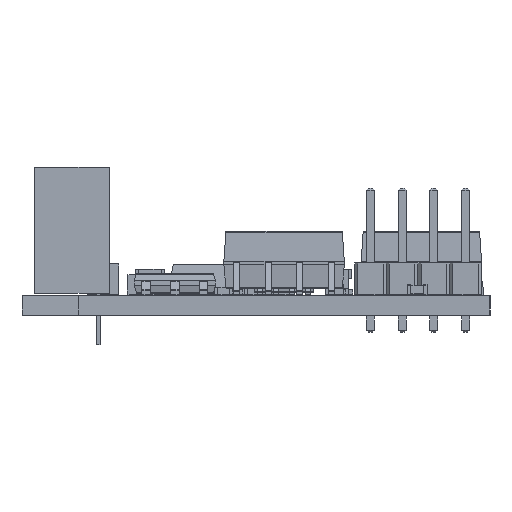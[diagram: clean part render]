
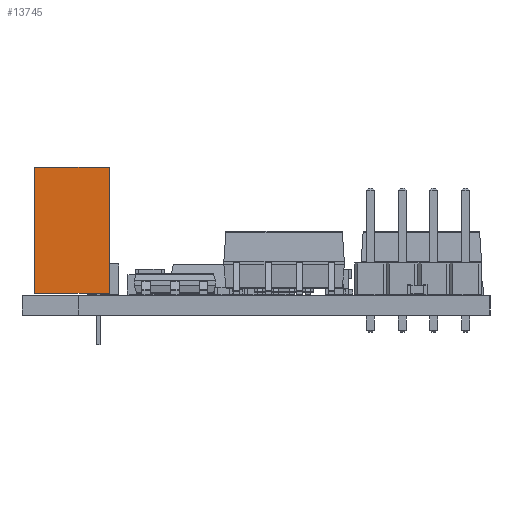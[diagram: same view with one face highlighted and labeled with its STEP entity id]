
A CAD part, left-side view. The second image highlights one B-rep face of the part: STEP entity #13745.
In plain terms, the highlighted planar face has unit normal (-1, 0, 0).
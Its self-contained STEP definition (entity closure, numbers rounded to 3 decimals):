
#13517 = EDGE_CURVE('',#13518,#13520,#13522,.T.);
#13518 = VERTEX_POINT('',#13519);
#13519 = CARTESIAN_POINT('',(0.,14.2,-6.));
#13520 = VERTEX_POINT('',#13521);
#13521 = CARTESIAN_POINT('',(0.,4.1,-6.));
#13522 = SURFACE_CURVE('',#13523,(#13527,#13539),.PCURVE_S1.);
#13523 = LINE('',#13524,#13525);
#13524 = CARTESIAN_POINT('',(0.,14.2,-6.));
#13525 = VECTOR('',#13526,1.);
#13526 = DIRECTION('',(0.,-1.,0.));
#13527 = PCURVE('',#13528,#13533);
#13528 = PLANE('',#13529);
#13529 = AXIS2_PLACEMENT_3D('',#13530,#13531,#13532);
#13530 = CARTESIAN_POINT('',(5.8,14.2,-6.));
#13531 = DIRECTION('',(0.,0.,1.));
#13532 = DIRECTION('',(1.,0.,0.));
#13533 = DEFINITIONAL_REPRESENTATION('',(#13534),#13538);
#13534 = LINE('',#13535,#13536);
#13535 = CARTESIAN_POINT('',(-5.8,0.));
#13536 = VECTOR('',#13537,1.);
#13537 = DIRECTION('',(0.,-1.));
#13538 = ( GEOMETRIC_REPRESENTATION_CONTEXT(2) 
PARAMETRIC_REPRESENTATION_CONTEXT() REPRESENTATION_CONTEXT('2D SPACE',''
  ) );
#13539 = PCURVE('',#13540,#13545);
#13540 = PLANE('',#13541);
#13541 = AXIS2_PLACEMENT_3D('',#13542,#13543,#13544);
#13542 = CARTESIAN_POINT('',(0.,14.2,-6.));
#13543 = DIRECTION('',(-1.,0.,0.));
#13544 = DIRECTION('',(0.,-1.,0.));
#13545 = DEFINITIONAL_REPRESENTATION('',(#13546),#13550);
#13546 = LINE('',#13547,#13548);
#13547 = CARTESIAN_POINT('',(0.,0.));
#13548 = VECTOR('',#13549,1.);
#13549 = DIRECTION('',(1.,0.));
#13550 = ( GEOMETRIC_REPRESENTATION_CONTEXT(2) 
PARAMETRIC_REPRESENTATION_CONTEXT() REPRESENTATION_CONTEXT('2D SPACE',''
  ) );
#13568 = PLANE('',#13569);
#13569 = AXIS2_PLACEMENT_3D('',#13570,#13571,#13572);
#13570 = CARTESIAN_POINT('',(0.,4.1,-6.));
#13571 = DIRECTION('',(0.,-1.,0.));
#13572 = DIRECTION('',(1.,0.,0.));
#13734 = PLANE('',#13735);
#13735 = AXIS2_PLACEMENT_3D('',#13736,#13737,#13738);
#13736 = CARTESIAN_POINT('',(11.6,14.2,-6.));
#13737 = DIRECTION('',(0.,1.,0.));
#13738 = DIRECTION('',(-1.,0.,0.));
#13745 = ADVANCED_FACE('',(#13746),#13540,.T.);
#13746 = FACE_BOUND('',#13747,.T.);
#13747 = EDGE_LOOP('',(#13748,#13771,#13799,#13820));
#13748 = ORIENTED_EDGE('',*,*,#13749,.T.);
#13749 = EDGE_CURVE('',#13520,#13750,#13752,.T.);
#13750 = VERTEX_POINT('',#13751);
#13751 = CARTESIAN_POINT('',(0.,4.1,0.));
#13752 = SURFACE_CURVE('',#13753,(#13757,#13764),.PCURVE_S1.);
#13753 = LINE('',#13754,#13755);
#13754 = CARTESIAN_POINT('',(0.,4.1,-6.));
#13755 = VECTOR('',#13756,1.);
#13756 = DIRECTION('',(0.,0.,1.));
#13757 = PCURVE('',#13540,#13758);
#13758 = DEFINITIONAL_REPRESENTATION('',(#13759),#13763);
#13759 = LINE('',#13760,#13761);
#13760 = CARTESIAN_POINT('',(10.1,0.));
#13761 = VECTOR('',#13762,1.);
#13762 = DIRECTION('',(0.,1.));
#13763 = ( GEOMETRIC_REPRESENTATION_CONTEXT(2) 
PARAMETRIC_REPRESENTATION_CONTEXT() REPRESENTATION_CONTEXT('2D SPACE',''
  ) );
#13764 = PCURVE('',#13568,#13765);
#13765 = DEFINITIONAL_REPRESENTATION('',(#13766),#13770);
#13766 = LINE('',#13767,#13768);
#13767 = CARTESIAN_POINT('',(0.,0.));
#13768 = VECTOR('',#13769,1.);
#13769 = DIRECTION('',(0.,1.));
#13770 = ( GEOMETRIC_REPRESENTATION_CONTEXT(2) 
PARAMETRIC_REPRESENTATION_CONTEXT() REPRESENTATION_CONTEXT('2D SPACE',''
  ) );
#13771 = ORIENTED_EDGE('',*,*,#13772,.F.);
#13772 = EDGE_CURVE('',#13773,#13750,#13775,.T.);
#13773 = VERTEX_POINT('',#13774);
#13774 = CARTESIAN_POINT('',(0.,14.2,0.));
#13775 = SURFACE_CURVE('',#13776,(#13780,#13787),.PCURVE_S1.);
#13776 = LINE('',#13777,#13778);
#13777 = CARTESIAN_POINT('',(0.,14.2,0.));
#13778 = VECTOR('',#13779,1.);
#13779 = DIRECTION('',(0.,-1.,0.));
#13780 = PCURVE('',#13540,#13781);
#13781 = DEFINITIONAL_REPRESENTATION('',(#13782),#13786);
#13782 = LINE('',#13783,#13784);
#13783 = CARTESIAN_POINT('',(0.,6.));
#13784 = VECTOR('',#13785,1.);
#13785 = DIRECTION('',(1.,0.));
#13786 = ( GEOMETRIC_REPRESENTATION_CONTEXT(2) 
PARAMETRIC_REPRESENTATION_CONTEXT() REPRESENTATION_CONTEXT('2D SPACE',''
  ) );
#13787 = PCURVE('',#13788,#13793);
#13788 = PLANE('',#13789);
#13789 = AXIS2_PLACEMENT_3D('',#13790,#13791,#13792);
#13790 = CARTESIAN_POINT('',(5.8,14.2,0.));
#13791 = DIRECTION('',(0.,0.,1.));
#13792 = DIRECTION('',(1.,0.,0.));
#13793 = DEFINITIONAL_REPRESENTATION('',(#13794),#13798);
#13794 = LINE('',#13795,#13796);
#13795 = CARTESIAN_POINT('',(-5.8,0.));
#13796 = VECTOR('',#13797,1.);
#13797 = DIRECTION('',(0.,-1.));
#13798 = ( GEOMETRIC_REPRESENTATION_CONTEXT(2) 
PARAMETRIC_REPRESENTATION_CONTEXT() REPRESENTATION_CONTEXT('2D SPACE',''
  ) );
#13799 = ORIENTED_EDGE('',*,*,#13800,.F.);
#13800 = EDGE_CURVE('',#13518,#13773,#13801,.T.);
#13801 = SURFACE_CURVE('',#13802,(#13806,#13813),.PCURVE_S1.);
#13802 = LINE('',#13803,#13804);
#13803 = CARTESIAN_POINT('',(0.,14.2,-6.));
#13804 = VECTOR('',#13805,1.);
#13805 = DIRECTION('',(0.,0.,1.));
#13806 = PCURVE('',#13540,#13807);
#13807 = DEFINITIONAL_REPRESENTATION('',(#13808),#13812);
#13808 = LINE('',#13809,#13810);
#13809 = CARTESIAN_POINT('',(0.,0.));
#13810 = VECTOR('',#13811,1.);
#13811 = DIRECTION('',(0.,1.));
#13812 = ( GEOMETRIC_REPRESENTATION_CONTEXT(2) 
PARAMETRIC_REPRESENTATION_CONTEXT() REPRESENTATION_CONTEXT('2D SPACE',''
  ) );
#13813 = PCURVE('',#13734,#13814);
#13814 = DEFINITIONAL_REPRESENTATION('',(#13815),#13819);
#13815 = LINE('',#13816,#13817);
#13816 = CARTESIAN_POINT('',(11.6,0.));
#13817 = VECTOR('',#13818,1.);
#13818 = DIRECTION('',(0.,1.));
#13819 = ( GEOMETRIC_REPRESENTATION_CONTEXT(2) 
PARAMETRIC_REPRESENTATION_CONTEXT() REPRESENTATION_CONTEXT('2D SPACE',''
  ) );
#13820 = ORIENTED_EDGE('',*,*,#13517,.T.);
